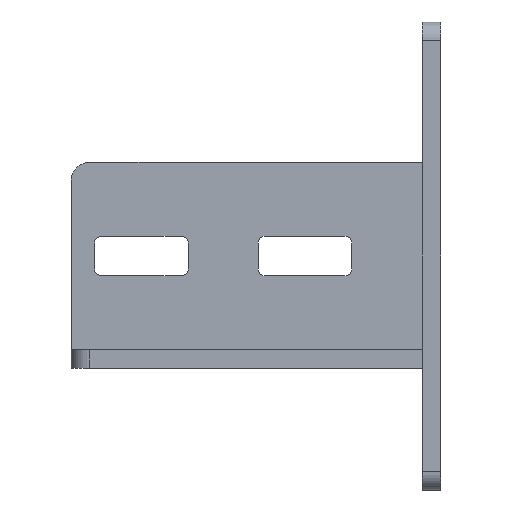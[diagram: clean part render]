
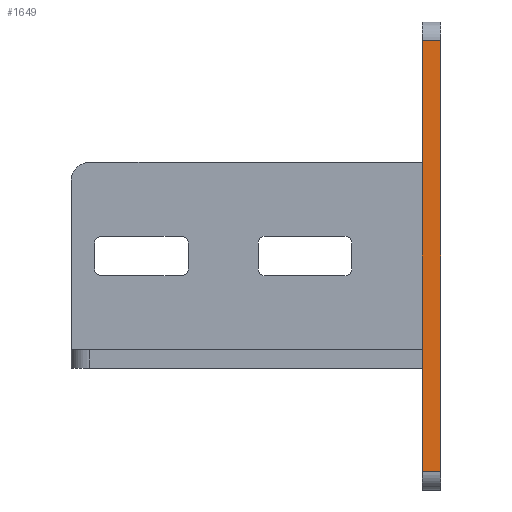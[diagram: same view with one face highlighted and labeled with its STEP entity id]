
A CAD part, left-side view. The second image highlights one B-rep face of the part: STEP entity #1649.
In plain terms, the highlighted planar face has unit normal (-1, 0, 0).
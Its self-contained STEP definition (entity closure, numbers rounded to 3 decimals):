
#66 = ORIENTED_EDGE ( 'NONE', *, *, #268, .T. ) ;
#101 = DIRECTION ( 'NONE',  ( 0., 0., 1. ) ) ;
#229 = VERTEX_POINT ( 'NONE', #4216 ) ;
#268 = EDGE_CURVE ( 'NONE', #229, #1246, #3475, .T. ) ;
#478 = CARTESIAN_POINT ( 'NONE',  ( -32.122, 0., -27.391 ) ) ;
#535 = CARTESIAN_POINT ( 'NONE',  ( -32.122, 4., 64.609 ) ) ;
#556 = VECTOR ( 'NONE', #4256, 1000. ) ;
#592 = CARTESIAN_POINT ( 'NONE',  ( -32.122, 4., -27.391 ) ) ;
#872 = LINE ( 'NONE', #535, #973 ) ;
#910 = DIRECTION ( 'NONE',  ( 0., -1., 0. ) ) ;
#973 = VECTOR ( 'NONE', #910, 1000. ) ;
#1058 = EDGE_LOOP ( 'NONE', ( #4012, #3159, #4347, #66 ) ) ;
#1246 = VERTEX_POINT ( 'NONE', #4016 ) ;
#1328 = AXIS2_PLACEMENT_3D ( 'NONE', #3424, #4164, #1964 ) ;
#1503 = LINE ( 'NONE', #592, #4551 ) ;
#1649 = ADVANCED_FACE ( 'NONE', ( #3040 ), #2328, .F. ) ;
#1694 = EDGE_CURVE ( 'NONE', #4548, #2371, #872, .T. ) ;
#1964 = DIRECTION ( 'NONE',  ( 0., 0., -1. ) ) ;
#2038 = DIRECTION ( 'NONE',  ( 0., 0., 1. ) ) ;
#2328 = PLANE ( 'NONE',  #1328 ) ;
#2371 = VERTEX_POINT ( 'NONE', #3564 ) ;
#2711 = CARTESIAN_POINT ( 'NONE',  ( -32.122, 4., 64.609 ) ) ;
#3040 = FACE_OUTER_BOUND ( 'NONE', #1058, .T. ) ;
#3159 = ORIENTED_EDGE ( 'NONE', *, *, #1694, .F. ) ;
#3384 = EDGE_CURVE ( 'NONE', #1246, #2371, #4689, .T. ) ;
#3424 = CARTESIAN_POINT ( 'NONE',  ( -32.122, 4., -27.391 ) ) ;
#3475 = LINE ( 'NONE', #4627, #556 ) ;
#3564 = CARTESIAN_POINT ( 'NONE',  ( -32.122, 0., 64.609 ) ) ;
#3728 = VECTOR ( 'NONE', #101, 1000. ) ;
#4012 = ORIENTED_EDGE ( 'NONE', *, *, #3384, .T. ) ;
#4016 = CARTESIAN_POINT ( 'NONE',  ( -32.122, 0., -27.391 ) ) ;
#4164 = DIRECTION ( 'NONE',  ( 1., 0., 0. ) ) ;
#4216 = CARTESIAN_POINT ( 'NONE',  ( -32.122, 4., -27.391 ) ) ;
#4256 = DIRECTION ( 'NONE',  ( 0., -1., 0. ) ) ;
#4347 = ORIENTED_EDGE ( 'NONE', *, *, #4727, .F. ) ;
#4548 = VERTEX_POINT ( 'NONE', #2711 ) ;
#4551 = VECTOR ( 'NONE', #2038, 1000. ) ;
#4627 = CARTESIAN_POINT ( 'NONE',  ( -32.122, 4., -27.391 ) ) ;
#4689 = LINE ( 'NONE', #478, #3728 ) ;
#4727 = EDGE_CURVE ( 'NONE', #229, #4548, #1503, .T. ) ;
